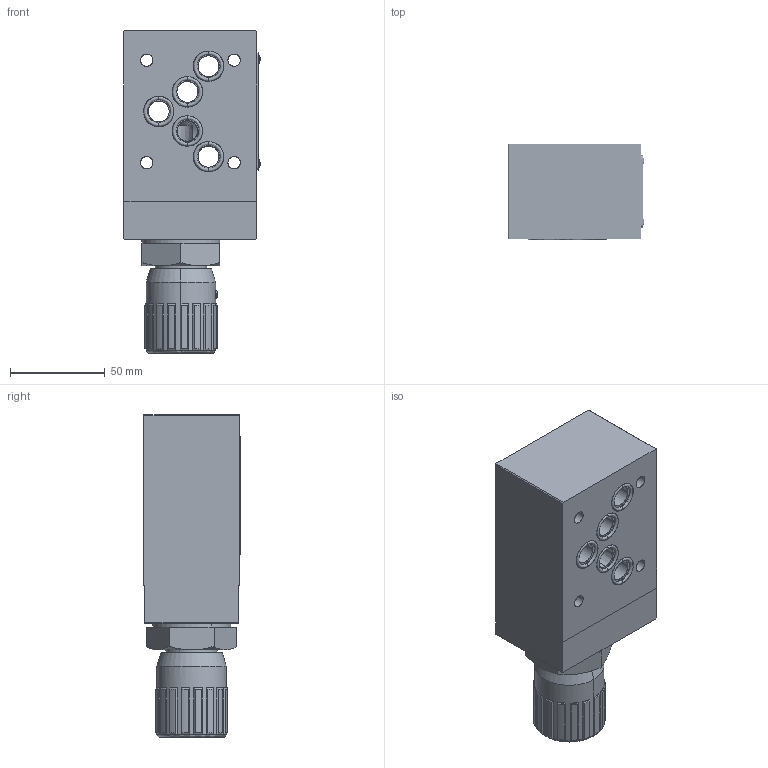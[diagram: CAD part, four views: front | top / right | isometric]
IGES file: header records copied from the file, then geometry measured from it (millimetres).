
Start section: SolidWorks IGES file using analytic representation for surfaces
Global section: file name: C:\Users\pc-te25\Desktop\357-5-B-05-H.IGS; native system: SolidWorks 2018; preprocessor: SolidWorks 2018; author: pc-te25; date: 200601.140000; units: millimetre
Bounding box: 71.66 x 50.58 x 169.8 mm (x, y, z)
Surface area: 98796.3 mm2 (no closed solid volume)
Topology: 0 solids, 0 shells, 2232 faces, 25835 edges, 25821 vertices
Faces by surface type: bspline 1640, revolution 592
